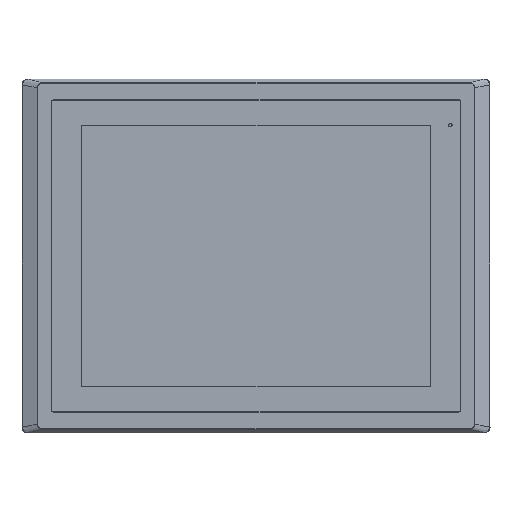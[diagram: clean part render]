
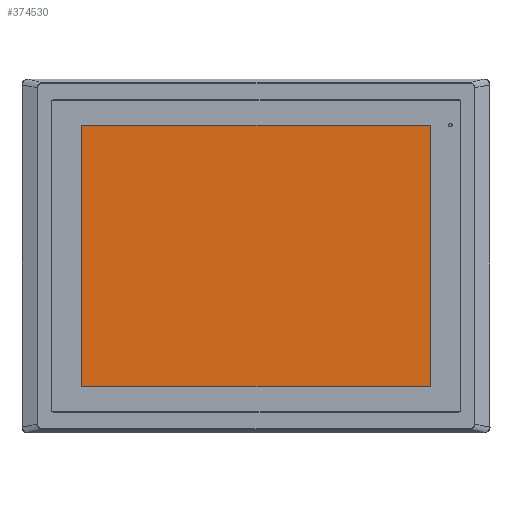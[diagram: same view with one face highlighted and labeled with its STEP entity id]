
A CAD part, top view. The second image highlights one B-rep face of the part: STEP entity #374530.
In plain terms, the highlighted planar face has unit normal (0, 0, 1).
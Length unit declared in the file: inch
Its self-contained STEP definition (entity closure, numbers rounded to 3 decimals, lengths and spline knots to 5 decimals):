
#25208 = DIRECTION ( 'NONE',  ( 1., 0., 0. ) ) ;
#31365 = CARTESIAN_POINT ( 'NONE',  ( 6.0061, -4.50965, 0.10236 ) ) ;
#46466 = CARTESIAN_POINT ( 'NONE',  ( 6.0061, -1.50322, 0.10236 ) ) ;
#61671 = CARTESIAN_POINT ( 'NONE',  ( -6.0061, -4.50965, 0.10236 ) ) ;
#67853 = CARTESIAN_POINT ( 'NONE',  ( 6.0061, -4.50965, 0.10236 ) ) ;
#67904 = CARTESIAN_POINT ( 'NONE',  ( 2.00203, 4.50965, 0.10236 ) ) ;
#68182 = ORIENTED_EDGE ( 'NONE', *, *, #211217, .T. ) ;
#72116 = EDGE_CURVE ( 'NONE', #360699, #265948, #234350, .T. ) ;
#105127 = EDGE_CURVE ( 'NONE', #161617, #360699, #350704, .T. ) ;
#110592 = CARTESIAN_POINT ( 'NONE',  ( -6.0061, -4.50965, 0.10236 ) ) ;
#140941 = CARTESIAN_POINT ( 'NONE',  ( -6.0061, 4.50965, 0.10236 ) ) ;
#144401 = PLANE ( 'NONE',  #336242 ) ;
#161617 = VERTEX_POINT ( 'NONE', #274301 ) ;
#169690 = CARTESIAN_POINT ( 'NONE',  ( 6.0061, 1.50322, 0.10236 ) ) ;
#178670 = CARTESIAN_POINT ( 'NONE',  ( 0., 0., 0.10236 ) ) ;
#184841 = CARTESIAN_POINT ( 'NONE',  ( -2.00203, -4.50965, 0.10236 ) ) ;
#191130 = CARTESIAN_POINT ( 'NONE',  ( -2.00203, 4.50965, 0.10236 ) ) ;
#192341 = B_SPLINE_CURVE_WITH_KNOTS ( 'NONE', 3,
 ( #61671, #184841, #307951, #31365 ),
 .UNSPECIFIED., .F., .F.,
 ( 4, 4 ),
 ( 0., 1. ),
 .UNSPECIFIED. ) ;
#207843 = ORIENTED_EDGE ( 'NONE', *, *, #105127, .T. ) ;
#211217 = EDGE_CURVE ( 'NONE', #265948, #229991, #192341, .T. ) ;
#229991 = VERTEX_POINT ( 'NONE', #67853 ) ;
#231834 = CARTESIAN_POINT ( 'NONE',  ( -6.0061, 4.50965, 0.10236 ) ) ;
#234350 = B_SPLINE_CURVE_WITH_KNOTS ( 'NONE', 3,
 ( #140941, #264102, #387246, #110592 ),
 .UNSPECIFIED., .F., .F.,
 ( 4, 4 ),
 ( 0., 1. ),
 .UNSPECIFIED. ) ;
#264102 = CARTESIAN_POINT ( 'NONE',  ( -6.0061, 1.50322, 0.10236 ) ) ;
#265948 = VERTEX_POINT ( 'NONE', #299207 ) ;
#273857 = EDGE_CURVE ( 'NONE', #229991, #161617, #372364, .T. ) ;
#274301 = CARTESIAN_POINT ( 'NONE',  ( 6.0061, 4.50965, 0.10236 ) ) ;
#279823 = EDGE_LOOP ( 'NONE', ( #68182, #328723, #207843, #367676 ) ) ;
#292751 = CARTESIAN_POINT ( 'NONE',  ( 6.0061, 4.50965, 0.10236 ) ) ;
#299207 = CARTESIAN_POINT ( 'NONE',  ( -6.0061, -4.50965, 0.10236 ) ) ;
#301770 = DIRECTION ( 'NONE',  ( 0., 0., 1. ) ) ;
#307951 = CARTESIAN_POINT ( 'NONE',  ( 2.00203, -4.50965, 0.10236 ) ) ;
#314228 = CARTESIAN_POINT ( 'NONE',  ( -6.0061, 4.50965, 0.10236 ) ) ;
#323022 = CARTESIAN_POINT ( 'NONE',  ( 6.0061, -4.50965, 0.10236 ) ) ;
#328063 = FACE_OUTER_BOUND ( 'NONE', #279823, .T. ) ;
#328723 = ORIENTED_EDGE ( 'NONE', *, *, #273857, .T. ) ;
#336242 = AXIS2_PLACEMENT_3D ( 'NONE', #178670, #301770, #25208 ) ;
#344483 = CARTESIAN_POINT ( 'NONE',  ( 6.0061, 4.50965, 0.10236 ) ) ;
#350704 = B_SPLINE_CURVE_WITH_KNOTS ( 'NONE', 3,
 ( #344483, #67904, #191130, #314228 ),
 .UNSPECIFIED., .F., .F.,
 ( 4, 4 ),
 ( 0., 1. ),
 .UNSPECIFIED. ) ;
#360699 = VERTEX_POINT ( 'NONE', #231834 ) ;
#367676 = ORIENTED_EDGE ( 'NONE', *, *, #72116, .T. ) ;
#372364 = B_SPLINE_CURVE_WITH_KNOTS ( 'NONE', 3,
 ( #323022, #46466, #169690, #292751 ),
 .UNSPECIFIED., .F., .F.,
 ( 4, 4 ),
 ( 0., 1. ),
 .UNSPECIFIED. ) ;
#374530 = ADVANCED_FACE ( 'NONE', ( #328063 ), #144401, .T. ) ;
#387246 = CARTESIAN_POINT ( 'NONE',  ( -6.0061, -1.50322, 0.10236 ) ) ;
